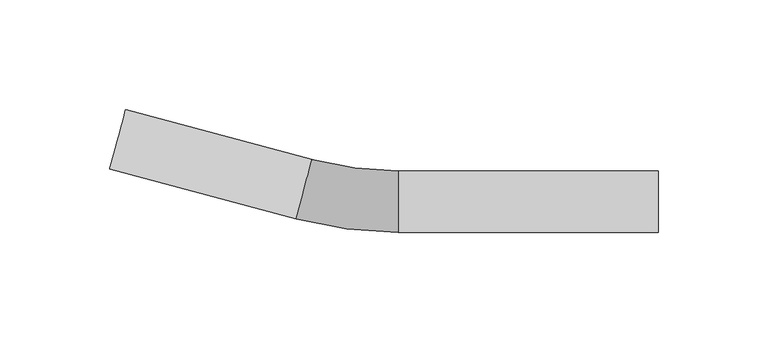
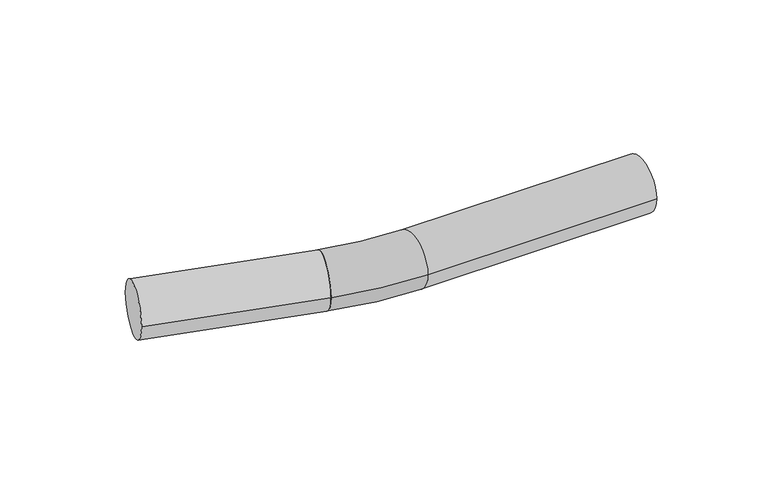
"""IFC4 building model written with IfcOpenShell, lengths in millimetres: pipe fitting geometry, VALTEC_VTi.955.I_Отвод безраструбный_нержавеющая : VTi.955.I."""

from ifc_helpers import new_model, si_unit, point, frame, origin, origin_2d, place, context, project, spatial, circle_curve, ellipse_curve, trimmed, segment, composite_curve, outline, extrude, source, transform, mapped, element, save
from ifc_brep_helpers import plane_surface, revolved_surface, advanced_brep


def pipe_fitting_11f8ec64(model_context):
    return source(origin(), model_context, "Body", "SolidModel", [
        advanced_brep(
        [(21.6, -14.0, 0.0), (21.6, 14.0, 0.0), (-24.9874281, -7.8666487, 0.0), (-17.7404949, 19.1792744, 0.0)],
        [
            (0, 1, circle_curve(frame((21.6, 0.0, 0.0), z_axis=(1.0, 0.0, 0.0), x_axis=(0.0, 1.0, 0.0)), 14.0)),
            (1, 0, circle_curve(frame((21.6, 0.0, 0.0), z_axis=(1.0, 0.0, 0.0), x_axis=(0.0, 1.0, 0.0)), 14.0)),
            (2, 3, circle_curve(frame((-21.3639615, 5.6563128, 0.0), z_axis=(-0.9659258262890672, 0.2588190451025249, 0.0), x_axis=(0.2588190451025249, 0.9659258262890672, 0.0)), 14.0)),
            (3, 2, circle_curve(frame((-21.3639615, 5.6563128, 0.0), z_axis=(-0.9659258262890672, 0.2588190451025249, 0.0), x_axis=(0.2588190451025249, 0.9659258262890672, 0.0)), 14.0)),
            (2, 0, circle_curve(frame((21.6, 166.0, 0.0), z_axis=(0.0, 0.0, 1.0), x_axis=(0.0, -1.0, 0.0)), 180.0)),
            (1, 3, circle_curve(frame((21.6, 166.0, 0.0), z_axis=(0.0, 0.0, -1.0), x_axis=(0.0, -1.0, 0.0)), 152.0)),
        ],
        [
            plane_surface(frame((21.6, 0.0, 0.0), z_axis=(1.0, 0.0, 0.0), x_axis=(0.0, 0.0, 1.0))),
            plane_surface(frame((-21.3639615, 5.6563128, 0.0), z_axis=(-0.9659258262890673, 0.2588190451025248, 0.0), x_axis=(0.0, 0.0, 1.0))),
            revolved_surface(trimmed(ellipse_curve(frame((21.6, 0.0, 0.0), z_axis=(-1.0, 0.0, 0.0), x_axis=(0.0, 1.0, 0.0)), 14.0, 14.0), [point((21.6, -14.0, 0.0))], [point((21.6, 14.0, 0.0))], True, "CARTESIAN"), (21.6, 166.0, 0.0), (0.0, 0.0, 1.0)),
            revolved_surface(trimmed(ellipse_curve(frame((21.6, 0.0, 0.0), z_axis=(-1.0, 0.0, 0.0), x_axis=(0.0, 1.0, 0.0)), 14.0, 14.0), [point((21.6, 14.0, 0.0))], [point((21.6, -14.0, 0.0))], True, "CARTESIAN"), (21.6, 166.0, 0.0), (0.0, 0.0, 1.0)),
        ],
        [
            (0, [[1, 2]]),
            (1, [[3, 4]]),
            (2, [[-3, 5, -2, 6]]),
            (3, [[-4, -6, -1, -5]]),
        ],
    ),
        extrude(outline(composite_curve([segment(trimmed(circle_curve(origin_2d(), 14.0), [point((0.0, 14.0))], [point((0.0, -14.0))], False, "CARTESIAN"), True, "CONTINUOUS"), segment(trimmed(circle_curve(origin_2d(), 14.0), [point((0.0, -14.0))], [point((0.0, 14.0))], False, "CARTESIAN"), True, "CONTINUOUS")], self_intersect=False)), frame((-21.3469608, 5.7199009, 0.0), z_axis=(-0.9659258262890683, 0.2588190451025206, 0.0), x_axis=(0.0, 0.0, 1.0)), (0.0, 0.0, 1.0), 87.9),
        extrude(outline(composite_curve([segment(trimmed(circle_curve(origin_2d(), 14.0), [point((14.0, 0.0))], [point((-14.0, 0.0))], False, "CARTESIAN"), True, "CONTINUOUS"), segment(trimmed(circle_curve(origin_2d(), 14.0), [point((-14.0, 0.0))], [point((14.0, 0.0))], False, "CARTESIAN"), True, "CONTINUOUS")], self_intersect=False)), frame((21.6, 0.0, 0.0), z_axis=(1.0, 0.0, 0.0), x_axis=(0.0, 1.0, 0.0)), (0.0, 0.0, 1.0), 118.4),
    ])


if __name__ == "__main__":
    model = new_model("IFC4")
    model_context = context("Model", 3, world=origin())
    ifc_project = project(units=[si_unit("LENGTHUNIT", "METRE", prefix="MILLI")], contexts=[model_context])
    site = spatial("IfcSite", under=ifc_project)
    building = spatial("IfcBuilding", under=site)
    placement = place(None, origin())
    pipe_fitting_shape = pipe_fitting_11f8ec64(model_context)
    element("IfcPipeFitting", 1, ObjectType="VALTEC_VTi.955.I_Отвод безраструбный_нержавеющая : VTi.955.I", at=placement, inside=building, context=model_context, shape_type="MappedRepresentation", body=[
        mapped(pipe_fitting_shape, transform((0.0, 0.0, 0.0), x_axis=(1.0, 0.0, 0.0), y_axis=(0.0, 1.0, 0.0), z_axis=(0.0, 0.0, 1.0))),
    ])
    save(model, "model.ifc")
